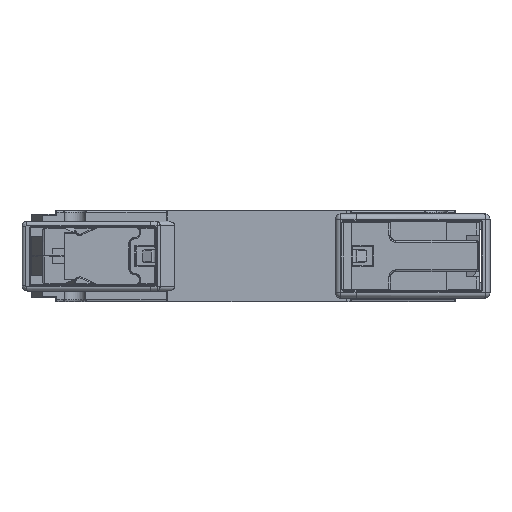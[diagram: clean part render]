
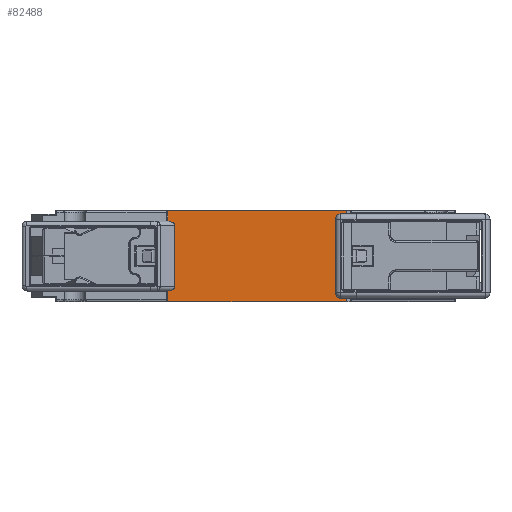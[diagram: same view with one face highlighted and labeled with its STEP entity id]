
A CAD part, front view. The second image highlights one B-rep face of the part: STEP entity #82488.
In plain terms, the highlighted planar face has unit normal (0, -1, 0).
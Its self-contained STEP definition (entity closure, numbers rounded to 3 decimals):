
#1484 = VECTOR ( 'NONE', #5228, 1000. ) ;
#2535 = VECTOR ( 'NONE', #32695, 1000. ) ;
#2541 = VECTOR ( 'NONE', #32703, 1000. ) ;
#5225 = LINE ( 'NONE', #5226, #1484 ) ;
#5226 = CARTESIAN_POINT ( 'NONE',  ( -2.032, -0.075, 6.701 ) ) ;
#5228 = DIRECTION ( 'NONE',  ( 1., 0., 0. ) ) ;
#10127 = FACE_OUTER_BOUND ( 'NONE', #72648, .T. ) ;
#10146 = PLANE ( 'NONE',  #13384 ) ;
#10185 = CARTESIAN_POINT ( 'NONE',  ( 86.132, -0.075, 7.308 ) ) ;
#10187 = DIRECTION ( 'NONE',  ( 0., 1., 0. ) ) ;
#10190 = DIRECTION ( 'NONE',  ( 0., 0., 1. ) ) ;
#13384 = AXIS2_PLACEMENT_3D ( 'NONE', #10185, #10187, #10190 ) ;
#32627 = LINE ( 'NONE', #32701, #2541 ) ;
#32690 = LINE ( 'NONE', #32692, #2535 ) ;
#32692 = CARTESIAN_POINT ( 'NONE',  ( 25.651, -0.075, 7.308 ) ) ;
#32695 = DIRECTION ( 'NONE',  ( 0., 0., 1. ) ) ;
#32701 = CARTESIAN_POINT ( 'NONE',  ( 26.052, -0.075, 3.547 ) ) ;
#32703 = DIRECTION ( 'NONE',  ( 0., 0., 1. ) ) ;
#39169 = CARTESIAN_POINT ( 'NONE',  ( 25.651, -0.075, -6.728 ) ) ;
#39209 = CARTESIAN_POINT ( 'NONE',  ( 25.651, -0.075, 6.701 ) ) ;
#39292 = CARTESIAN_POINT ( 'NONE',  ( 26.052, -0.075, 8.763 ) ) ;
#39497 = CARTESIAN_POINT ( 'NONE',  ( 60.556, -0.075, 6.701 ) ) ;
#39520 = CARTESIAN_POINT ( 'NONE',  ( 60.545, -0.075, -8.763 ) ) ;
#39593 = CARTESIAN_POINT ( 'NONE',  ( 25.945, -0.075, -8.747 ) ) ;
#39596 = CARTESIAN_POINT ( 'NONE',  ( 26.043, -0.075, -8.763 ) ) ;
#39796 = CARTESIAN_POINT ( 'NONE',  ( 25.945, -0.075, -6.728 ) ) ;
#39800 = CARTESIAN_POINT ( 'NONE',  ( 26.052, -0.075, 6.701 ) ) ;
#39938 = CARTESIAN_POINT ( 'NONE',  ( 60.556, -0.075, 8.763 ) ) ;
#46004 = VECTOR ( 'NONE', #55800, 1000. ) ;
#46785 = VECTOR ( 'NONE', #67978, 1000. ) ;
#55793 = LINE ( 'NONE', #55797, #46004 ) ;
#55797 = CARTESIAN_POINT ( 'NONE',  ( 1.379, -0.075, 8.763 ) ) ;
#55800 = DIRECTION ( 'NONE',  ( 1., 0., 0. ) ) ;
#61993 = LINE ( 'NONE', #62000, #62757 ) ;
#62000 = CARTESIAN_POINT ( 'NONE',  ( 25.945, -0.075, 7.308 ) ) ;
#62005 = DIRECTION ( 'NONE',  ( 0., 0., 1. ) ) ;
#62757 = VECTOR ( 'NONE', #62005, 1000. ) ;
#63671 = VECTOR ( 'NONE', #92667, 1000. ) ;
#63721 = VECTOR ( 'NONE', #92724, 1000. ) ;
#67976 = LINE ( 'NONE', #67977, #46785 ) ;
#67977 = CARTESIAN_POINT ( 'NONE',  ( 25.651, -0.075, -6.728 ) ) ;
#67978 = DIRECTION ( 'NONE',  ( -1., 0., 0. ) ) ;
#70742 = VERTEX_POINT ( 'NONE', #39169 ) ;
#70768 = VERTEX_POINT ( 'NONE', #39209 ) ;
#70821 = VERTEX_POINT ( 'NONE', #39292 ) ;
#70951 = VERTEX_POINT ( 'NONE', #39497 ) ;
#70965 = VERTEX_POINT ( 'NONE', #39520 ) ;
#70996 = VERTEX_POINT ( 'NONE', #39593 ) ;
#70997 = VERTEX_POINT ( 'NONE', #39596 ) ;
#71080 = VERTEX_POINT ( 'NONE', #39796 ) ;
#71082 = VERTEX_POINT ( 'NONE', #39800 ) ;
#71156 = VERTEX_POINT ( 'NONE', #39938 ) ;
#72648 = EDGE_LOOP ( 'NONE', ( #84833, #84834, #84835, #84836, #84837, #84838, #84839, #84840, #84841, #84842 ) ) ;
#82488 = ADVANCED_FACE ( 'NONE', ( #10127 ), #10146, .F. ) ;
#84833 = ORIENTED_EDGE ( 'NONE', *, *, #89751, .F. ) ;
#84834 = ORIENTED_EDGE ( 'NONE', *, *, #89946, .F. ) ;
#84835 = ORIENTED_EDGE ( 'NONE', *, *, #90568, .F. ) ;
#84836 = ORIENTED_EDGE ( 'NONE', *, *, #89983, .F. ) ;
#84837 = ORIENTED_EDGE ( 'NONE', *, *, #91297, .F. ) ;
#84838 = ORIENTED_EDGE ( 'NONE', *, *, #91298, .T. ) ;
#84839 = ORIENTED_EDGE ( 'NONE', *, *, #90096, .F. ) ;
#84840 = ORIENTED_EDGE ( 'NONE', *, *, #90103, .F. ) ;
#84841 = ORIENTED_EDGE ( 'NONE', *, *, #90417, .F. ) ;
#84842 = ORIENTED_EDGE ( 'NONE', *, *, #89947, .F. ) ;
#86561 = LINE ( 'NONE', #86567, #92177 ) ;
#86567 = CARTESIAN_POINT ( 'NONE',  ( 64.057, -0.075, -8.763 ) ) ;
#86579 = CARTESIAN_POINT ( 'NONE',  ( 26.043, -0.075, -8.462 ) ) ;
#86580 = DIRECTION ( 'NONE',  ( 0., 1., 0. ) ) ;
#86581 = DIRECTION ( 'NONE',  ( 0., 0., -1. ) ) ;
#86583 = DIRECTION ( 'NONE',  ( 1., 0., 0. ) ) ;
#89751 = EDGE_CURVE ( 'NONE', #70768, #71082, #5225, .T. ) ;
#89946 = EDGE_CURVE ( 'NONE', #70742, #70768, #32690, .T. ) ;
#89947 = EDGE_CURVE ( 'NONE', #71082, #70821, #32627, .T. ) ;
#89983 = EDGE_CURVE ( 'NONE', #70996, #71080, #61993, .T. ) ;
#90096 = EDGE_CURVE ( 'NONE', #70951, #70965, #92665, .T. ) ;
#90103 = EDGE_CURVE ( 'NONE', #71156, #70951, #92721, .T. ) ;
#90417 = EDGE_CURVE ( 'NONE', #70821, #71156, #55793, .T. ) ;
#90568 = EDGE_CURVE ( 'NONE', #71080, #70742, #67976, .T. ) ;
#91297 = EDGE_CURVE ( 'NONE', #70997, #70996, #92174, .T. ) ;
#91298 = EDGE_CURVE ( 'NONE', #70997, #70965, #86561, .T. ) ;
#92174 = CIRCLE ( 'NONE', #92178, 0.301 ) ;
#92177 = VECTOR ( 'NONE', #86583, 1000. ) ;
#92178 = AXIS2_PLACEMENT_3D ( 'NONE', #86579, #86580, #86581 ) ;
#92665 = LINE ( 'NONE', #92666, #63671 ) ;
#92666 = CARTESIAN_POINT ( 'NONE',  ( 60.556, -0.075, 6.701 ) ) ;
#92667 = DIRECTION ( 'NONE',  ( -0.001, 0., -1. ) ) ;
#92721 = LINE ( 'NONE', #92723, #63721 ) ;
#92723 = CARTESIAN_POINT ( 'NONE',  ( 60.556, -0.075, 7.308 ) ) ;
#92724 = DIRECTION ( 'NONE',  ( 0., 0., -1. ) ) ;
